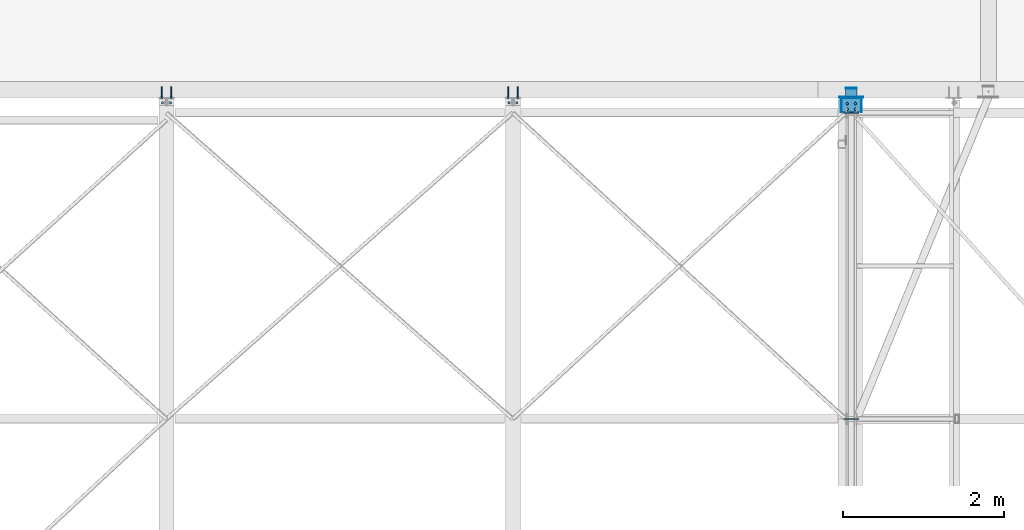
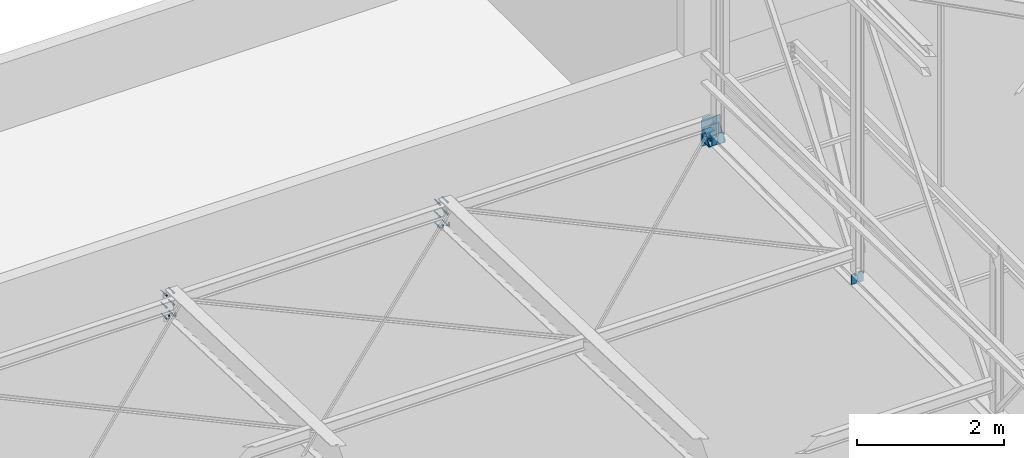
# One storey, part 77 of 123: 13 discrete accessories, 9 mechanical fasteners, 9 elements without a shape of their own.
"""IFC2X3 building model written with IfcOpenShell, lengths in millimetres."""

from ifc_helpers import new_model, si_unit, frame, frame_2d, origin_with_axes, origin_2d_with_axis, place, context, subcontext, project, spatial, polyline, circle_curve, parameter, trimmed, segment, composite_curve, circle, i_section, outline, extrude, source, transform, mapped, material, type_object, element, aggregate, save


model = new_model("IFC2X3")

# Units and contexts
model_context = context("Model", 3, precision=1e-05, world=origin_with_axes())
body_context = subcontext(model_context, "Body", "Model", "MODEL_VIEW")
ifc_project = project(units=[si_unit("LENGTHUNIT", "METRE", prefix="MILLI"), si_unit("AREAUNIT", "SQUARE_METRE"), si_unit("VOLUMEUNIT", "CUBIC_METRE"), si_unit("MASSUNIT", "GRAM", prefix="KILO"), si_unit("TIMEUNIT", "SECOND"), si_unit("PLANEANGLEUNIT", "RADIAN"), si_unit("SOLIDANGLEUNIT", "STERADIAN"), si_unit("THERMODYNAMICTEMPERATUREUNIT", "DEGREE_CELSIUS"), si_unit("LUMINOUSINTENSITYUNIT", "LUMEN")], contexts=[model_context])

# Site, building, storey
site_placement = place(None, origin_with_axes())
site = spatial("IfcSite", under=ifc_project, at=site_placement, Name="Undefined", CompositionType="ELEMENT")
building_placement = place(site_placement, origin_with_axes())
building = spatial("IfcBuilding", under=site, at=building_placement, Name="Undefined", CompositionType="ELEMENT")
storey_placement = place(building_placement, origin_with_axes())
storey = spatial("IfcBuildingStorey", under=building, at=storey_placement, Name="Undefined", CompositionType="ELEMENT", Elevation=0.0)

# Assembly, discrete accessories
assembly_1_placement = place(storey_placement, origin_with_axes())
assembly_1 = element("IfcElementAssembly", 1, at=assembly_1_placement, inside=storey, Name="Steel Assembly", AssemblyPlace="NOTDEFINED", PredefinedType="RIGID_FRAME")
ifc_material_1 = material(Name="STEEL/S235-E24")
discrete_accessory_type_1 = type_object("IfcDiscreteAccessoryType", Name="RAIDISSEUR")
discrete_accessory_1_placement = place(assembly_1_placement, frame((12773.2499999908, 11399.9999999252, 7071.0), z_axis=(0.0, 1.0, 0.0), x_axis=(-1.0, 0.0, 0.0)))
discrete_accessory_1 = element("IfcDiscreteAccessory", 2, at=discrete_accessory_1_placement, type_object=discrete_accessory_type_1, material=ifc_material_1, Name="RAIDISSEUR", ObjectType="TOLE10*90", context=body_context, shape_type="SweptSolid", body=[
    extrude(outline(polyline([(0.0, 0.0), (75.0, 0.0), (90.0, 40.0), (90.0, 128.0), (75.0, 168.0), (0.0, 168.0), (0.0, 0.0)])), frame((0.0, 0.0, -5.0), z_axis=(0.0, 0.0, 1.0), x_axis=(1.0, 0.0, 0.0)), (0.0, 0.0, 1.0), 10.0),
])
discrete_accessory_2_placement = place(assembly_1_placement, frame((12676.7499999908, 11399.999999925, 7071.0), z_axis=(0.0, 1.0, 0.0), x_axis=(-1.0, 0.0, 0.0)))
discrete_accessory_2 = element("IfcDiscreteAccessory", 3, at=discrete_accessory_2_placement, type_object=discrete_accessory_type_1, material=ifc_material_1, Name="RAIDISSEUR", ObjectType="TOLE10*90", context=body_context, shape_type="SweptSolid", body=[
    extrude(outline(polyline([(0.0, 40.0), (15.0, 0.0), (90.0, 0.0), (90.0, 168.0), (15.0, 168.0), (0.0, 128.0), (0.0, 40.0)])), frame((0.0, 0.0, -5.0), z_axis=(0.0, 0.0, 1.0), x_axis=(1.0, 0.0, 0.0)), (0.0, 0.0, 1.0), 10.0),
])
discrete_accessory_3_placement = place(assembly_1_placement, frame((12773.2499999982, 15199.9999999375, 7071.0), z_axis=(0.0, 1.0, 0.0), x_axis=(-1.0, 0.0, 0.0)))
discrete_accessory_3 = element("IfcDiscreteAccessory", 4, at=discrete_accessory_3_placement, type_object=discrete_accessory_type_1, material=ifc_material_1, Name="RAIDISSEUR", ObjectType="TOLE10*90", context=body_context, shape_type="SweptSolid", body=[
    extrude(outline(polyline([(0.0, 0.0), (75.0, 0.0), (90.0, 40.0), (90.0, 128.0), (75.0, 168.0), (0.0, 168.0), (0.0, 0.0)])), frame((0.0, 0.0, -5.0), z_axis=(0.0, 0.0, 1.0), x_axis=(1.0, 0.0, 0.0)), (0.0, 0.0, 1.0), 10.0),
])
discrete_accessory_4_placement = place(assembly_1_placement, frame((12676.7499999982, 15199.9999999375, 7071.0), z_axis=(0.0, 1.0, 0.0), x_axis=(-1.0, 0.0, 0.0)))
discrete_accessory_4 = element("IfcDiscreteAccessory", 5, at=discrete_accessory_4_placement, type_object=discrete_accessory_type_1, material=ifc_material_1, Name="RAIDISSEUR", ObjectType="TOLE10*90", context=body_context, shape_type="SweptSolid", body=[
    extrude(outline(polyline([(0.0, 40.0), (15.0, 0.0), (90.0, 0.0), (90.0, 168.0), (15.0, 168.0), (0.0, 128.0), (0.0, 40.0)])), frame((0.0, 0.0, -5.0), z_axis=(0.0, 0.0, 1.0), x_axis=(1.0, 0.0, 0.0)), (0.0, 0.0, 1.0), 10.0),
])
aggregate(assembly_1, [discrete_accessory_1, discrete_accessory_2, discrete_accessory_3, discrete_accessory_4])

assembly_2_placement = place(storey_placement, origin_with_axes())
assembly_2 = element("IfcElementAssembly", 6, at=assembly_2_placement, inside=storey, Name="Steel Assembly", AssemblyPlace="NOTDEFINED", PredefinedType="RIGID_FRAME")
discrete_accessory_5_placement = place(assembly_2_placement, frame((12554.999999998, 15210.0000004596, 7060.0), z_axis=(-1.0, 0.0, 0.0), x_axis=(0.0, 0.0, 1.0)))
discrete_accessory_5 = element("IfcDiscreteAccessory", 7, at=discrete_accessory_5_placement, type_object=discrete_accessory_type_1, material=ifc_material_1, Name="RAIDISSEUR", ObjectType="PL10*170", context=body_context, shape_type="SweptSolid", body=[
    extrude(outline(polyline([(0.0, 0.0), (19.999999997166, 0.0), (214.999206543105, 150.000000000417), (214.999145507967, 170.000000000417), (29.9999970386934, 170.00000000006), (-2.43872305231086e-06, 140.000000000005), (0.0, 0.0)])), frame((0.0, 0.0, -5.0), z_axis=(0.0, 0.0, 1.0), x_axis=(1.0, 0.0, 0.0)), (0.0, 0.0, 1.0), 10.0),
])
discrete_accessory_6_placement = place(assembly_2_placement, frame((12804.9999999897, 15210.0000004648, 7060.00000000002), z_axis=(-1.0, 0.0, 0.0), x_axis=(0.0, 0.0, 1.0)))
discrete_accessory_6 = element("IfcDiscreteAccessory", 8, at=discrete_accessory_6_placement, type_object=discrete_accessory_type_1, material=ifc_material_1, Name="RAIDISSEUR", ObjectType="PL10*170", context=body_context, shape_type="SweptSolid", body=[
    extrude(outline(polyline([(0.0, 0.0), (19.999999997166, 0.0), (214.999206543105, 150.000000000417), (214.999145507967, 170.000000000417), (29.9999970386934, 170.00000000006), (-2.43872305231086e-06, 140.000000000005), (0.0, 0.0)])), frame((0.0, 0.0, -5.0), z_axis=(0.0, 0.0, 1.0), x_axis=(1.0, 0.0, 0.0)), (0.0, 0.0, 1.0), 10.0),
])
discrete_accessory_type_2 = type_object("IfcDiscreteAccessoryType", Name="SABOT")
discrete_accessory_7_placement = place(assembly_2_placement, frame((12679.9999999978, 15380.0000000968, 7055.0), z_axis=(0.0, 0.0, -1.0), x_axis=(0.0, -1.0, 0.0)))
discrete_accessory_7 = element("IfcDiscreteAccessory", 9, at=discrete_accessory_7_placement, type_object=discrete_accessory_type_2, material=ifc_material_1, Name="SABOT", ObjectType="PL10*260", context=body_context, shape_type="SweptSolid", body=[
    extrude(outline(polyline([(169.99999962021, 130.0), (169.99999962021, -130.0), (0.0, -130.0), (0.0, 130.0), (169.99999962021, 130.0)])), frame((0.0, 0.0, -5.0), z_axis=(0.0, 0.0, 1.0), x_axis=(1.0, 0.0, 0.0)), (0.0, 0.0, 1.0), 10.0),
])
discrete_accessory_8_placement = place(assembly_2_placement, frame((12680.0000000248, 15384.9999998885, 7274.99913993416), z_axis=(0.0, 1.0, 0.0), x_axis=(0.0, 0.0, -1.0)))
discrete_accessory_8 = element("IfcDiscreteAccessory", 10, at=discrete_accessory_8_placement, type_object=discrete_accessory_type_2, material=ifc_material_1, Name="SABOT", ObjectType="PL10*260", context=body_context, shape_type="SweptSolid", body=[
    extrude(outline(polyline([(240.000836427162, 130.0), (240.000836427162, -130.0), (0.0, -130.0), (0.0, 130.0), (240.000836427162, 130.0)])), frame((0.0, 0.0, -5.0), z_axis=(0.0, 0.0, 1.0), x_axis=(1.0, 0.0, 0.0)), (0.0, 0.0, 1.0), 10.0),
])

assembly_3_placement = place(storey_placement, origin_with_axes())
assembly_3 = element("IfcElementAssembly", 11, at=assembly_3_placement, inside=storey, Name="Steel Assembly", AssemblyPlace="NOTDEFINED", PredefinedType="RIGID_FRAME")
discrete_accessory_type_3 = type_object("IfcDiscreteAccessoryType", Name="PLAT")
discrete_accessory_9_placement = place(assembly_3_placement, frame((12680.0000000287, 15506.9999999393, 7146.49830350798), z_axis=(0.0, 1.0, 0.0), x_axis=(0.0, 0.0, -1.0)))
discrete_accessory_9 = element("IfcDiscreteAccessory", 12, at=discrete_accessory_9_placement, type_object=discrete_accessory_type_3, material=ifc_material_1, Name="PLAT", ObjectType="PL10*140", context=body_context, shape_type="SweptSolid", body=[
    extrude(outline(polyline([(132.999999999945, 70.0), (132.999999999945, -70.0), (0.0, -70.0), (0.0, 70.0), (132.999999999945, 70.0)])), frame((0.0, 0.0, -5.0), z_axis=(0.0, 0.0, 1.0), x_axis=(1.0, 0.0, 0.0)), (0.0, 0.0, 1.0), 10.0),
])
discrete_accessory_10_placement = place(assembly_3_placement, frame((12680.0000000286, 15506.9999999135, 7346.49830350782), z_axis=(0.0, 1.0, 0.0), x_axis=(0.0, 0.0, -1.0)))
discrete_accessory_10 = element("IfcDiscreteAccessory", 13, at=discrete_accessory_10_placement, type_object=discrete_accessory_type_3, material=ifc_material_1, Name="PLAT", ObjectType="PL10*140", context=body_context, shape_type="SweptSolid", body=[
    extrude(outline(polyline([(132.999999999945, 70.0), (132.999999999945, -70.0), (0.0, -70.0), (0.0, 70.0), (132.999999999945, 70.0)])), frame((0.0, 0.0, -5.0), z_axis=(0.0, 0.0, 1.0), x_axis=(1.0, 0.0, 0.0)), (0.0, 0.0, 1.0), 10.0),
])
ifc_material_2 = material(Name="STEEL/S275-E28")
discrete_accessory_type_4 = type_object("IfcDiscreteAccessoryType", Name="BECHE")
discrete_accessory_11_placement = place(assembly_3_placement, frame((12680.0000000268, 15401.9999999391, 7079.99830350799), z_axis=(0.0, 0.0, 1.0), x_axis=(0.0, 1.0, 0.0)))
discrete_accessory_11 = element("IfcDiscreteAccessory", 14, at=discrete_accessory_11_placement, type_object=discrete_accessory_type_4, material=ifc_material_2, Name="BECHE", ObjectType="HEA140", context=body_context, shape_type="SweptSolid", body=[
    extrude(i_section(OverallWidth=140.0, OverallDepth=133.0, WebThickness=5.5, FlangeThickness=8.5, FilletRadius=12.0, at=origin_2d_with_axis()), frame((99.9999999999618, 0.0, 0.0), z_axis=(-1.0, 0.0, 0.0), x_axis=(0.0, -1.0, 0.0)), (0.0, 0.0, 1.0), 100.0),
])
discrete_accessory_12_placement = place(assembly_3_placement, frame((12680.0000000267, 15401.9999999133, 7279.99830350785), z_axis=(0.0, 0.0, 1.0), x_axis=(0.0, 1.0, 0.0)))
discrete_accessory_12 = element("IfcDiscreteAccessory", 15, at=discrete_accessory_12_placement, type_object=discrete_accessory_type_4, material=ifc_material_2, Name="BECHE", ObjectType="HEA140", context=body_context, shape_type="SweptSolid", body=[
    extrude(i_section(OverallWidth=140.0, OverallDepth=133.0, WebThickness=5.5, FlangeThickness=8.5, FilletRadius=12.0, at=origin_2d_with_axis()), frame((99.9999999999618, 0.0, 0.0), z_axis=(-1.0, 0.0, 0.0), x_axis=(0.0, -1.0, 0.0)), (0.0, 0.0, 1.0), 100.0),
])
discrete_accessory_type_5 = type_object("IfcDiscreteAccessoryType", Name="PRESCELLEMENT")
discrete_accessory_13_placement = place(assembly_3_placement, frame((12680.0000000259, 15395.9999998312, 7394.99830350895), z_axis=(0.0, 1.0, 0.0), x_axis=(0.0, 0.0, -1.0)))
discrete_accessory_13 = element("IfcDiscreteAccessory", 16, at=discrete_accessory_13_placement, type_object=discrete_accessory_type_5, material=ifc_material_1, Name="PRESCELLEMENT", ObjectType="PL12*300", context=body_context, shape_type="SweptSolid", body=[
    extrude(outline(polyline([(429.999999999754, 150.0), (429.999999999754, -150.0), (0.0, -150.0), (0.0, 150.0), (429.999999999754, 150.0)])), frame((0.0, 0.0, -6.0), z_axis=(0.0, 0.0, 1.0), x_axis=(1.0, 0.0, 0.0)), (0.0, 0.0, 1.0), 12.0),
])
aggregate(assembly_3, [discrete_accessory_9, discrete_accessory_11, discrete_accessory_10, discrete_accessory_12, discrete_accessory_13])

# Assembly, mechanical fastener
assembly_4_placement = place(storey_placement, origin_with_axes())
assembly_4 = element("IfcElementAssembly", 17, at=assembly_4_placement, inside=storey, Name="Steel Assembly", AssemblyPlace="NOTDEFINED", PredefinedType="RIGID_FRAME")
ifc_material_3 = material(Name="INOX_A4")
discrete_accessory_type_6 = type_object("IfcDiscreteAccessoryType", Name="Bolt assembly")
shared_shape_1 = source(origin_with_axes(), body_context, "Body", "SweptSolid", [
    extrude(circle(Radius=9.0, at=origin_2d_with_axis()), frame((0.0, -9.99988171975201, 0.0), z_axis=(0.0, 1.0, 0.0), x_axis=(1.0, 0.0, 0.0)), (0.0, 0.0, 1.0), 10.1),
    extrude(outline(polyline([(13.85640646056, 0.0), (6.92820323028, 12.0000000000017), (-6.92820323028, 12.0000000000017), (-13.85640646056, 0.0), (-6.92820323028, -12.0000000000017), (6.92820323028, -12.0000000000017), (13.85640646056, 0.0)])), frame((0.0, -16.7998819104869, 0.0), z_axis=(0.0, 1.0, 0.0), x_axis=(1.0, 0.0, 0.0)), (0.0, 0.0, 1.0), 6.8),
    extrude(circle(Radius=8.0, at=origin_2d_with_axis()), frame((0.0, -9.99988171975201, 0.0), z_axis=(0.0, 1.0, 0.0), x_axis=(1.0, 0.0, 0.0)), (0.0, 0.0, 1.0), 146.2),
    extrude(outline(polyline([(13.85640646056, 0.0), (6.92820323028, 12.0000000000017), (-6.92820323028, 12.0000000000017), (-13.85640646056, 0.0), (-6.92820323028, -12.0000000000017), (6.92820323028, -12.0000000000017), (13.85640646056, 0.0)])), frame((0.0, 0.000118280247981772, 0.0), z_axis=(0.0, 1.0, 0.0), x_axis=(1.0, 0.0, 0.0)), (0.0, 0.0, 1.0), 16.0),
])
mechanical_fastener_1_placement = place(assembly_4_placement, frame((8480.00000000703, 15389.9998817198, 7061.12760916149), z_axis=(-1.0, 0.0, 0.0), x_axis=(0.0, 0.0, 1.0)))
mechanical_fastener_1 = element("IfcMechanicalFastener", 18, at=mechanical_fastener_1_placement, type_object=discrete_accessory_type_6, material=ifc_material_3, Name="Bolt assembly", NominalDiameter=16.0, NominalLength=146.199996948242, context=body_context, shape_type="MappedRepresentation", body=[
    mapped(shared_shape_1, transform((0.0, 0.0, -60.0))),
    mapped(shared_shape_1, transform((0.0, 0.0, 60.0))),
])

assembly_5_placement = place(storey_placement, origin_with_axes())
assembly_5 = element("IfcElementAssembly", 19, at=assembly_5_placement, inside=storey, Name="Steel Assembly", AssemblyPlace="NOTDEFINED", PredefinedType="RIGID_FRAME")
mechanical_fastener_2_placement = place(assembly_5_placement, frame((8420.0, 15389.9998771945, 7343.28139518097), z_axis=(0.0, 0.0, 1.0), x_axis=(1.0, 0.0, 0.0)))
mechanical_fastener_2 = element("IfcMechanicalFastener", 20, at=mechanical_fastener_2_placement, type_object=discrete_accessory_type_6, material=ifc_material_3, Name="Bolt assembly", NominalDiameter=16.0, NominalLength=146.199996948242, context=body_context, shape_type="MappedRepresentation", body=[
    mapped(shared_shape_1, transform((0.0, 0.0, -100.0))),
    mapped(shared_shape_1, transform((0.0, 0.0, 100.0))),
])
aggregate(assembly_5, [mechanical_fastener_2])

assembly_6_placement = place(storey_placement, origin_with_axes())
assembly_6 = element("IfcElementAssembly", 21, at=assembly_6_placement, inside=storey, Name="Steel Assembly", AssemblyPlace="NOTDEFINED", PredefinedType="RIGID_FRAME")
mechanical_fastener_3_placement = place(assembly_6_placement, frame((8540.0, 15389.9998771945, 7343.28139518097), z_axis=(0.0, 0.0, -1.0), x_axis=(-1.0, 0.0, 0.0)))
mechanical_fastener_3 = element("IfcMechanicalFastener", 22, at=mechanical_fastener_3_placement, type_object=discrete_accessory_type_6, material=ifc_material_3, Name="Bolt assembly", NominalDiameter=16.0, NominalLength=146.199996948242, context=body_context, shape_type="MappedRepresentation", body=[
    mapped(shared_shape_1, transform((0.0, 0.0, -100.0))),
    mapped(shared_shape_1, transform((0.0, 0.0, 100.0))),
])
aggregate(assembly_6, [mechanical_fastener_3])

assembly_7_placement = place(storey_placement, origin_with_axes())
assembly_7 = element("IfcElementAssembly", 23, at=assembly_7_placement, inside=storey, Name="Steel Assembly", AssemblyPlace="NOTDEFINED", PredefinedType="RIGID_FRAME")
mechanical_fastener_4_placement = place(assembly_7_placement, frame((4180.00000000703, 15389.9998817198, 7061.12760916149), z_axis=(-1.0, 0.0, 0.0), x_axis=(0.0, 0.0, 1.0)))
mechanical_fastener_4 = element("IfcMechanicalFastener", 24, at=mechanical_fastener_4_placement, type_object=discrete_accessory_type_6, material=ifc_material_3, Name="Bolt assembly", NominalDiameter=16.0, NominalLength=146.199996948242, context=body_context, shape_type="MappedRepresentation", body=[
    mapped(shared_shape_1, transform((0.0, 0.0, -60.0))),
    mapped(shared_shape_1, transform((0.0, 0.0, 60.0))),
])

assembly_8_placement = place(storey_placement, origin_with_axes())
assembly_8 = element("IfcElementAssembly", 25, at=assembly_8_placement, inside=storey, Name="Steel Assembly", AssemblyPlace="NOTDEFINED", PredefinedType="RIGID_FRAME")
mechanical_fastener_5_placement = place(assembly_8_placement, frame((4240.0, 15389.9998771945, 7343.28139518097), z_axis=(0.0, 0.0, -1.0), x_axis=(-1.0, 0.0, 0.0)))
mechanical_fastener_5 = element("IfcMechanicalFastener", 26, at=mechanical_fastener_5_placement, type_object=discrete_accessory_type_6, material=ifc_material_3, Name="Bolt assembly", NominalDiameter=16.0, NominalLength=146.199996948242, context=body_context, shape_type="MappedRepresentation", body=[
    mapped(shared_shape_1, transform((0.0, 0.0, -100.0))),
    mapped(shared_shape_1, transform((0.0, 0.0, 100.0))),
])
aggregate(assembly_8, [mechanical_fastener_5])

assembly_9_placement = place(storey_placement, origin_with_axes())
assembly_9 = element("IfcElementAssembly", 27, at=assembly_9_placement, inside=storey, Name="Steel Assembly", AssemblyPlace="NOTDEFINED", PredefinedType="RIGID_FRAME")
mechanical_fastener_6_placement = place(assembly_9_placement, frame((4120.0, 15389.9998771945, 7343.28139518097), z_axis=(0.0, 0.0, 1.0), x_axis=(1.0, 0.0, 0.0)))
mechanical_fastener_6 = element("IfcMechanicalFastener", 28, at=mechanical_fastener_6_placement, type_object=discrete_accessory_type_6, material=ifc_material_3, Name="Bolt assembly", NominalDiameter=16.0, NominalLength=146.199996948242, context=body_context, shape_type="MappedRepresentation", body=[
    mapped(shared_shape_1, transform((0.0, 0.0, -100.0))),
    mapped(shared_shape_1, transform((0.0, 0.0, 100.0))),
])
aggregate(assembly_9, [mechanical_fastener_6])

# Mechanical fastener
ifc_material_4 = material(Name="HR10.9")
shared_shape_2 = source(origin_with_axes(), body_context, "Body", "SweptSolid", [
    extrude(circle(Radius=9.0, at=origin_2d_with_axis()), frame((0.0, -14.5000003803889, 0.0), z_axis=(0.0, 1.0, 0.0), x_axis=(1.0, 0.0, 0.0)), (0.0, 0.0, 1.0), 14.6),
    extrude(outline(composite_curve([segment(polyline([(-9.0, 9.0), (9.0, 9.0)]), True, "CONTINUOUS"), segment(trimmed(circle_curve(frame_2d((9.0, 0.0), x_axis=(0.0, 1.0)), 9.0), [parameter(0.0)], [parameter(3.14159265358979)], False, "PARAMETER"), True, "CONTINUOUS"), segment(polyline([(9.0, -9.0), (-9.0, -9.0)]), True, "CONTINUOUS"), segment(trimmed(circle_curve(frame_2d((-9.0, 0.0), x_axis=(0.0, -1.0)), 9.0), [parameter(0.0)], [parameter(3.14159265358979)], False, "PARAMETER"), True, "DISCONTINUOUS")], self_intersect=False)), frame((0.0, -0.100000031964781, 0.0), z_axis=(0.0, 1.0, 0.0), x_axis=(1.0, 0.0, 0.0)), (0.0, 0.0, 1.0), 10.1),
    extrude(outline(polyline([(13.85640646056, 0.0), (6.92820323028, 12.0000000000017), (-6.92820323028, 12.0000000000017), (-13.85640646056, 0.0), (-6.92820323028, -12.0000000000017), (6.92820323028, -12.0000000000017), (13.85640646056, 0.0)])), frame((0.0, -28.6000003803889, 0.0), z_axis=(0.0, 1.0, 0.0), x_axis=(1.0, 0.0, 0.0)), (0.0, 0.0, 1.0), 10.0),
    extrude(circle(Radius=8.0, at=origin_2d_with_axis()), frame((0.0, -18.6000003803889, 0.0), z_axis=(0.0, 1.0, 0.0), x_axis=(1.0, 0.0, 0.0)), (0.0, 0.0, 1.0), 60.0),
    extrude(circle(Radius=15.0, at=origin_2d_with_axis()), frame((0.0, -18.6000003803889, 0.0), z_axis=(0.0, 1.0, 0.0), x_axis=(1.0, 0.0, 0.0)), (0.0, 0.0, 1.0), 4.0),
    extrude(circle(Radius=15.0, at=origin_2d_with_axis()), frame((0.0, 9.99999996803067, 0.0), z_axis=(0.0, 1.0, 0.0), x_axis=(1.0, 0.0, 0.0)), (0.0, 0.0, 1.0), 4.0),
    extrude(outline(polyline([(15.58845726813, 0.0), (7.794228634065, 13.5000000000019), (-7.794228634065, 13.5000000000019), (-15.58845726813, 0.0), (-7.794228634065, -13.5000000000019), (7.794228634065, -13.5000000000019), (15.58845726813, 0.0)])), frame((0.0, 13.9999999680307, 0.0), z_axis=(0.0, 1.0, 0.0), x_axis=(1.0, 0.0, 0.0)), (0.0, 0.0, 1.0), 15.0),
])
mechanical_fastener_7_placement = place(assembly_4_placement, frame((8480.0, 15325.0320735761, 7118.16930849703), z_axis=(-1.0, 0.0, 0.0), x_axis=(0.0, 0.999506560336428, -0.0314107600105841)))
mechanical_fastener_7 = element("IfcMechanicalFastener", 29, at=mechanical_fastener_7_placement, type_object=discrete_accessory_type_6, material=ifc_material_4, Name="Bolt assembly", NominalDiameter=16.0, NominalLength=60.0, context=body_context, shape_type="MappedRepresentation", body=[
    mapped(shared_shape_2, transform((0.0, 0.0, -50.0))),
    mapped(shared_shape_2, transform((0.0, 0.0, 50.0))),
])

aggregate(assembly_4, [mechanical_fastener_1, mechanical_fastener_7])

shared_shape_3 = source(origin_with_axes(), body_context, "Body", "SweptSolid", [
    extrude(circle(Radius=9.0, at=origin_2d_with_axis()), frame((0.0, -9.9, 0.0), z_axis=(0.0, 1.0, 0.0), x_axis=(1.0, 0.0, 0.0)), (0.0, 0.0, 1.0), 10.0),
    extrude(outline(composite_curve([segment(polyline([(-9.0, 9.0), (9.0, 9.0)]), True, "CONTINUOUS"), segment(trimmed(circle_curve(frame_2d((9.0, 0.0), x_axis=(0.0, 1.0)), 9.0), [parameter(0.0)], [parameter(3.14159265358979)], False, "PARAMETER"), True, "CONTINUOUS"), segment(polyline([(9.0, -9.0), (-9.0, -9.0)]), True, "CONTINUOUS"), segment(trimmed(circle_curve(frame_2d((-9.0, 0.0), x_axis=(0.0, -1.0)), 9.0), [parameter(0.0)], [parameter(3.14159265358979)], False, "PARAMETER"), True, "DISCONTINUOUS")], self_intersect=False)), frame((0.0, -0.100000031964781, 0.0), z_axis=(0.0, 1.0, 0.0), x_axis=(1.0, 0.0, 0.0)), (0.0, 0.0, 1.0), 10.1),
    extrude(outline(polyline([(13.85640646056, 0.0), (6.92820323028, 12.0000000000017), (-6.92820323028, 12.0000000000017), (-13.85640646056, 0.0), (-6.92820323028, -12.0000000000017), (6.92820323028, -12.0000000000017), (13.85640646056, 0.0)])), frame((0.0, -23.9999978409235, 0.0), z_axis=(0.0, 1.0, 0.0), x_axis=(1.0, 0.0, 0.0)), (0.0, 0.0, 1.0), 10.0),
    extrude(circle(Radius=8.0, at=origin_2d_with_axis()), frame((0.0, -13.9999978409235, 0.0), z_axis=(0.0, 1.0, 0.0), x_axis=(1.0, 0.0, 0.0)), (0.0, 0.0, 1.0), 50.0),
    extrude(circle(Radius=15.0, at=origin_2d_with_axis()), frame((0.0, -13.9999978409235, 0.0), z_axis=(0.0, 1.0, 0.0), x_axis=(1.0, 0.0, 0.0)), (0.0, 0.0, 1.0), 4.0),
    extrude(circle(Radius=15.0, at=origin_2d_with_axis()), frame((0.0, 9.99999996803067, 0.0), z_axis=(0.0, 1.0, 0.0), x_axis=(1.0, 0.0, 0.0)), (0.0, 0.0, 1.0), 4.0),
    extrude(outline(polyline([(15.58845726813, 0.0), (7.794228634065, 13.5000000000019), (-7.794228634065, 13.5000000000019), (-15.58845726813, 0.0), (-7.794228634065, -13.5000000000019), (7.794228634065, -13.5000000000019), (15.58845726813, 0.0)])), frame((0.0, 13.9999999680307, 0.0), z_axis=(0.0, 1.0, 0.0), x_axis=(1.0, 0.0, 0.0)), (0.0, 0.0, 1.0), 15.0),
])
mechanical_fastener_8_placement = place(assembly_2_placement, frame((12679.9999999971, 15245.0000004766, 7060.00000000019), z_axis=(-1.0, 0.0, 0.0), x_axis=(0.0, 1.0, 0.0)))
mechanical_fastener_8 = element("IfcMechanicalFastener", 30, at=mechanical_fastener_8_placement, type_object=discrete_accessory_type_6, material=ifc_material_4, Name="Bolt assembly", NominalDiameter=16.0, NominalLength=50.0, context=body_context, shape_type="MappedRepresentation", body=[
    mapped(shared_shape_3, transform((0.0, 0.0, -50.0))),
    mapped(shared_shape_3, transform((70.0, 0.0, -50.0))),
    mapped(shared_shape_3, transform((0.0, 0.0, 50.0))),
    mapped(shared_shape_3, transform((70.0, 0.0, 50.0))),
])

aggregate(assembly_2, [mechanical_fastener_8, discrete_accessory_5, discrete_accessory_6, discrete_accessory_7, discrete_accessory_8])

shared_shape_4 = source(origin_with_axes(), body_context, "Body", "SweptSolid", [
    extrude(circle(Radius=9.0, at=origin_2d_with_axis()), frame((0.0, -14.5000003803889, 0.0), z_axis=(0.0, 1.0, 0.0), x_axis=(1.0, 0.0, 0.0)), (0.0, 0.0, 1.0), 14.6),
    extrude(outline(composite_curve([segment(polyline([(-9.0, 9.0), (9.0, 9.0)]), True, "CONTINUOUS"), segment(trimmed(circle_curve(frame_2d((9.0, 0.0), x_axis=(0.0, 1.0)), 9.0), [parameter(0.0)], [parameter(3.14159265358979)], False, "PARAMETER"), True, "CONTINUOUS"), segment(polyline([(9.0, -9.0), (-9.0, -9.0)]), True, "CONTINUOUS"), segment(trimmed(circle_curve(frame_2d((-9.0, 0.0), x_axis=(0.0, -1.0)), 9.0), [parameter(0.0)], [parameter(3.14159265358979)], False, "PARAMETER"), True, "DISCONTINUOUS")], self_intersect=False)), frame((0.0, -0.100000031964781, 0.0), z_axis=(0.0, 1.0, 0.0), x_axis=(1.0, 0.0, 0.0)), (0.0, 0.0, 1.0), 10.1),
    extrude(outline(polyline([(13.85640646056, 0.0), (6.92820323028, 12.0000000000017), (-6.92820323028, 12.0000000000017), (-13.85640646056, 0.0), (-6.92820323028, -12.0000000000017), (6.92820323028, -12.0000000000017), (13.85640646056, 0.0)])), frame((0.0, -28.6000003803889, 0.0), z_axis=(0.0, 1.0, 0.0), x_axis=(1.0, 0.0, 0.0)), (0.0, 0.0, 1.0), 10.0),
    extrude(circle(Radius=8.0, at=origin_2d_with_axis()), frame((0.0, -18.6000003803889, 0.0), z_axis=(0.0, 1.0, 0.0), x_axis=(1.0, 0.0, 0.0)), (0.0, 0.0, 1.0), 60.0),
    extrude(circle(Radius=15.0, at=origin_2d_with_axis()), frame((0.0, -18.6000003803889, 0.0), z_axis=(0.0, 1.0, 0.0), x_axis=(1.0, 0.0, 0.0)), (0.0, 0.0, 1.0), 4.0),
    extrude(circle(Radius=15.0, at=origin_2d_with_axis()), frame((0.0, 9.99999996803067, 0.0), z_axis=(0.0, 1.0, 0.0), x_axis=(1.0, 0.0, 0.0)), (0.0, 0.0, 1.0), 4.0),
    extrude(outline(polyline([(15.58845726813, 0.0), (7.794228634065, 13.5000000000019), (-7.794228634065, 13.5000000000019), (-15.58845726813, 0.0), (-7.794228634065, -13.5000000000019), (7.794228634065, -13.5000000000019), (15.58845726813, 0.0)])), frame((0.0, 13.9999999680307, 0.0), z_axis=(0.0, 1.0, 0.0), x_axis=(1.0, 0.0, 0.0)), (0.0, 0.0, 1.0), 15.0),
])
mechanical_fastener_9_placement = place(assembly_7_placement, frame((4180.0, 15325.0320735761, 7118.16930849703), z_axis=(-1.0, 0.0, 0.0), x_axis=(0.0, 0.999506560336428, -0.0314107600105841)))
mechanical_fastener_9 = element("IfcMechanicalFastener", 31, at=mechanical_fastener_9_placement, type_object=discrete_accessory_type_6, material=ifc_material_4, Name="Bolt assembly", NominalDiameter=16.0, NominalLength=60.0, context=body_context, shape_type="MappedRepresentation", body=[
    mapped(shared_shape_4, transform((0.0, 0.0, -50.0))),
    mapped(shared_shape_4, transform((0.0, 0.0, 50.0))),
])

aggregate(assembly_7, [mechanical_fastener_4, mechanical_fastener_9])

save(model, "model.ifc")
